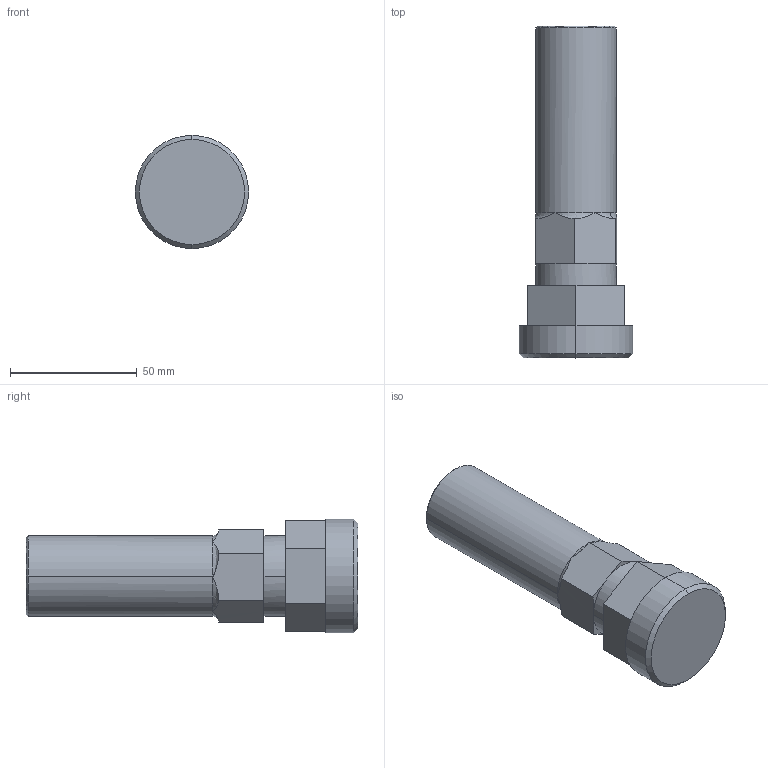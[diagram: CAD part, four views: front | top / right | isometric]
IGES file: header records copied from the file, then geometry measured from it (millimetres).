
Start section: SolidWorks IGES file using analytic representation for surfaces
Global section: file name: S:\Product Visuals\REVISED-60L-TOP-MOUNT-FITTINGS\IGS\top-straight-outlet-only\tubeout\20-tube-out-with-top-mount-adapter.IGS; native system: SolidWorks 2012; preprocessor: SolidWorks 2012; author: rachel.dressel; date: 121127.135315; units: inch
Bounding box: 44.7 x 131.09 x 44.7 mm (x, y, z)
Volume: 122357.4 mm3; surface area: 17364.9 mm2
Topology: 1 solids, 1 shells, 45 faces, 107 edges, 66 vertices
Faces by surface type: plane 28, revolution 10, bspline 7
